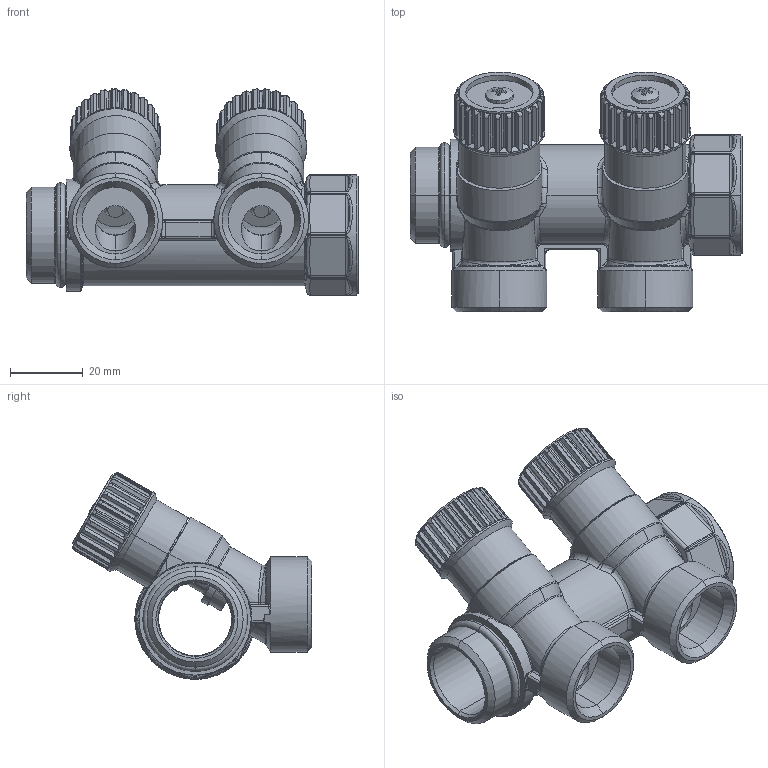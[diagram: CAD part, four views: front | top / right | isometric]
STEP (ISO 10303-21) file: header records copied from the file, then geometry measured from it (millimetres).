
FILE_DESCRIPTION (( 'STEP AP214' ), '1' );
FILE_NAME ('AMD102_Modul_rozszerzaj¹cy_dorozdzielacza_wody_pitnej_2210200_0_3D_AFRISO.STEP', '2025-01-23T08:59:40', ( '' ), ( '' ), 'SwSTEP 2.0', 'SolidWorks 2024', '' );
FILE_SCHEMA (( 'AUTOMOTIVE_DESIGN' ));
Length unit declared in the file: millimetre
Products named in the file (14): 9446820; 68512802FRS; 9346615; AMD102_Modul_rozszerzający_dorozdzielacza_wody_pitnej_2210200_0_3D_AFRISO; Seeger a filo Vitone; 3424693; OR Asta; 4761624; OR Corpo Vitone_montato; Asta vitone collettori; Corpo Vitone Coll; Guarnizione piatta Otturatore; 68512802FRLN; Otturatore Vitone Coll
Assembly tree (17 placements, depth 4):
  AMD102_Modul_rozszerzający_dorozdzielacza_wody_pitnej_2210200_0_3D_AFRISO
    68512802FRS
      9446820  x2
        Corpo Vitone Coll
        Otturatore Vitone Coll
        Asta vitone collettori
        Seeger a filo Vitone
        Guarnizione piatta Otturatore
        OR Asta
        OR Corpo Vitone_montato
      68512802FRLN
      9346615  x2
      4761624  x2
      3424693
Bounding box: 91 x 65.71 x 56.63 mm (x, y, z)
Volume: 52988.8 mm3; surface area: 44865.3 mm2
Topology: 22 solids, 22 shells, 1781 faces, 4465 edges, 2769 vertices
Faces by surface type: cylinder 619, plane 529, bspline 256, torus 215, cone 144, sphere 18
Entity records: 42421 total; most frequent: CARTESIAN_POINT 17748, ORIENTED_EDGE 5388, DIRECTION 4726, EDGE_CURVE 2694, AXIS2_PLACEMENT_3D 1956, VERTEX_POINT 1661, EDGE_LOOP 1157, ADVANCED_FACE 1095
